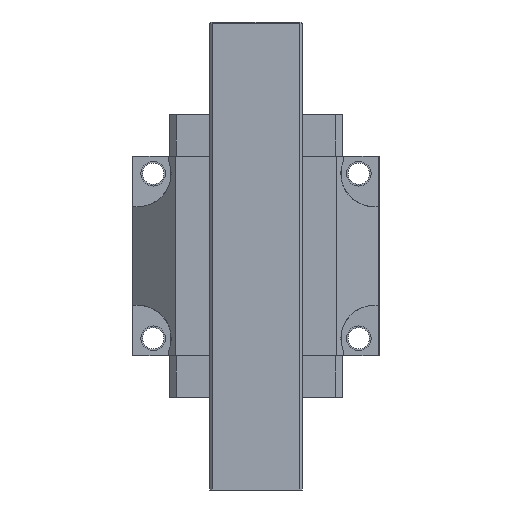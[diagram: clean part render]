
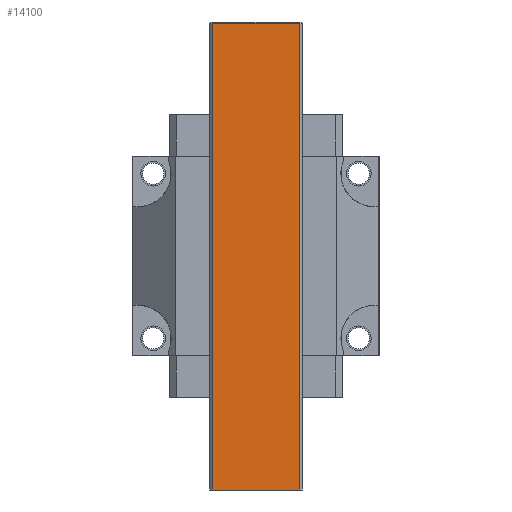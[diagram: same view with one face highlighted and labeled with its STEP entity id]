
A CAD part, front view. The second image highlights one B-rep face of the part: STEP entity #14100.
In plain terms, the highlighted planar face has unit normal (0, -1, 0).
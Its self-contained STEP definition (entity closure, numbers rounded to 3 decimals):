
#13061=DIRECTION('',(1.,0.,0.));
#13062=VECTOR('',#13061,42.6);
#13063=CARTESIAN_POINT('',(-21.3,-23.5,-113.8));
#13064=LINE('',#13063,#13062);
#13334=DIRECTION('',(1.,0.,0.));
#13335=VECTOR('',#13334,42.6);
#13336=CARTESIAN_POINT('',(-21.3,-23.5,112.934));
#13337=LINE('',#13336,#13335);
#13338=DIRECTION('',(0.,0.,1.));
#13339=VECTOR('',#13338,226.734);
#13340=CARTESIAN_POINT('',(-21.3,-23.5,-113.8));
#13341=LINE('',#13340,#13339);
#13346=DIRECTION('',(0.,0.,1.));
#13347=VECTOR('',#13346,226.734);
#13348=CARTESIAN_POINT('',(21.3,-23.5,-113.8));
#13349=LINE('',#13348,#13347);
#13532=CARTESIAN_POINT('',(-21.3,-23.5,-113.8));
#13533=VERTEX_POINT('',#13532);
#13534=CARTESIAN_POINT('',(21.3,-23.5,-113.8));
#13535=VERTEX_POINT('',#13534);
#13596=CARTESIAN_POINT('',(21.3,-23.5,112.934));
#13597=VERTEX_POINT('',#13596);
#13600=CARTESIAN_POINT('',(-21.3,-23.5,112.934));
#13601=VERTEX_POINT('',#13600);
#14088=CARTESIAN_POINT('',(-21.3,-23.5,-113.8));
#14089=DIRECTION('',(0.,-1.,0.));
#14090=DIRECTION('',(1.,0.,0.));
#14091=AXIS2_PLACEMENT_3D('',#14088,#14089,#14090);
#14092=PLANE('',#14091);
#14093=ORIENTED_EDGE('',*,*,#14079,.T.);
#14095=ORIENTED_EDGE('',*,*,#14094,.F.);
#14096=ORIENTED_EDGE('',*,*,#13681,.F.);
#14097=ORIENTED_EDGE('',*,*,#14054,.T.);
#14098=EDGE_LOOP('',(#14093,#14095,#14096,#14097));
#14099=FACE_OUTER_BOUND('',#14098,.F.);
#13681=EDGE_CURVE('',#13533,#13535,#13064,.T.);
#14054=EDGE_CURVE('',#13533,#13601,#13341,.T.);
#14079=EDGE_CURVE('',#13601,#13597,#13337,.T.);
#14094=EDGE_CURVE('',#13535,#13597,#13349,.T.);
#14100=ADVANCED_FACE('',(#14099),#14092,.T.);
